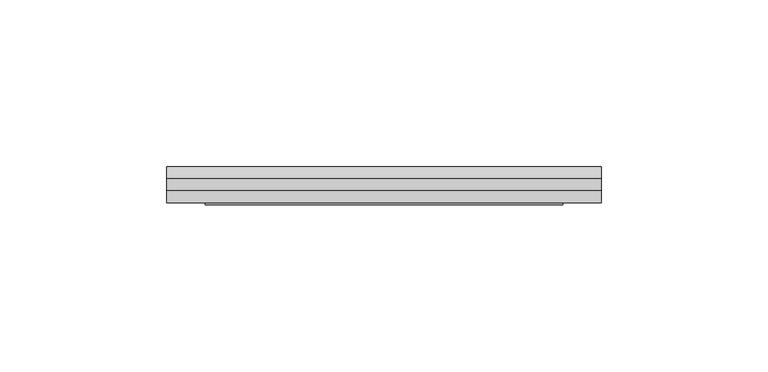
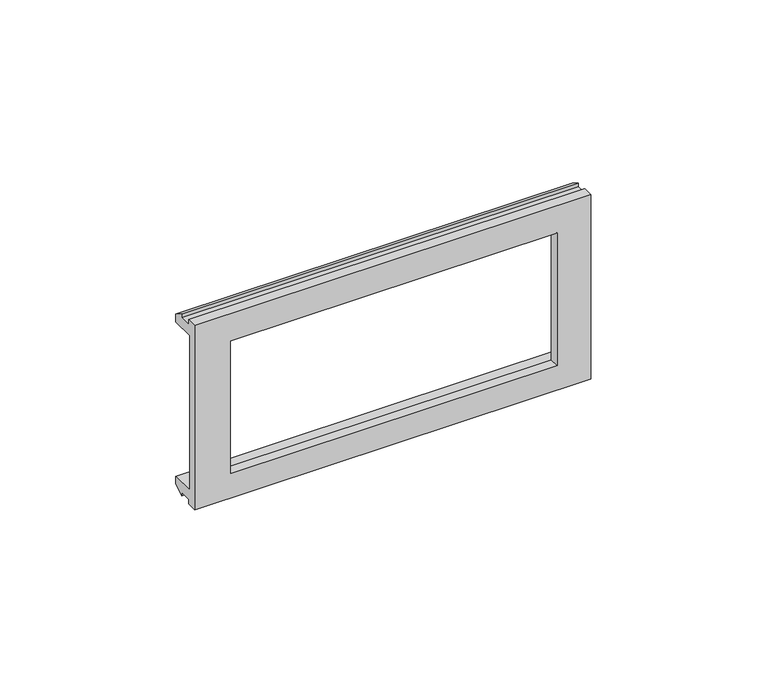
"""IFC4 building model written with IfcOpenShell, lengths in millimetres: proxy geometry."""

from ifc_helpers import new_model, si_unit, frame, origin, place, context, project, spatial, polyline, circle_curve, source, transform, mapped, element, save
from ifc_brep_helpers import plane_surface, cylinder_surface, revolved_surface, advanced_brep


def electrical_fixtures_c6ee2e83(model_context):
    return source(origin(), model_context, "Body", "AdvancedBrep", [
        advanced_brep(
        [(65.0, -3.5, 32.0), (65.0, -3.5, -32.0), (65.0, 0.0, -32.0), (65.0, -0.1920215, -30.3542211), (65.0, 3.8395952, -30.3542211), (65.0, 3.8395952, -31.5769261), (65.0, 7.1871999, -29.457495), (65.0, 7.1871999, -26.8043792), (65.0, -0.5712834, -26.8043792), (65.0, -0.5712834, 26.8043792), (65.0, 7.1871999, 26.8043792), (65.0, 7.1871999, 29.457495), (65.0, 3.8395952, 31.5769261), (65.0, 3.8395952, 30.3542211), (65.0, -0.1920215, 30.3542211), (65.0, 0.0, 32.0), (-65.0, -3.5, 32.0), (-65.0, 0.0, 32.0), (-65.0, -0.1920215, 30.3542211), (-65.0, 3.8395952, 30.3542211), (-65.0, 3.8395952, 31.5769261), (-65.0, 7.1871999, 29.457495), (-65.0, 7.1871999, 26.8043792), (-65.0, -0.5712834, 26.8043792), (-65.0, -0.5712834, -26.8043792), (-65.0, 7.1871999, -26.8043792), (-65.0, 7.1871999, -29.457495), (-65.0, 3.8395952, -31.5769261), (-65.0, 3.8395952, -30.3542211), (-65.0, -0.1920215, -30.3542211), (-65.0, 0.0, -32.0), (-65.0, -3.5, -32.0), (53.5, -4.1351573, 23.0), (53.5, -4.1351573, -23.0), (-53.5, -4.1351573, -23.0), (-53.5, -4.1351573, 23.0), (53.5, -0.9249591, -23.0), (53.5, -0.9249591, 23.0), (-53.5, -0.9249591, 23.0), (-53.5, -0.9249591, -23.0)],
        [
            (0, 1, circle_curve(frame((65.0, 385.8496712, 0.0), z_axis=(1.0, 0.0, 0.0), x_axis=(0.0, 1.0, 0.0)), 390.6624713)),
            (1, 2),
            (2, 3, circle_curve(frame((65.0, 267.1169132, 0.0), z_axis=(-1.0, 0.0, 0.0), x_axis=(0.0, 1.0, 0.0)), 269.0268487)),
            (3, 4),
            (4, 5),
            (5, 6),
            (6, 7),
            (7, 8),
            (8, 9, circle_curve(frame((65.0, 267.1169132, 0.0), z_axis=(-1.0, 0.0, 0.0), x_axis=(0.0, 1.0, 0.0)), 269.0268487)),
            (9, 10),
            (10, 11),
            (11, 12),
            (12, 13),
            (13, 14),
            (14, 15, circle_curve(frame((65.0, 267.1169132, 0.0), z_axis=(-1.0, 0.0, 0.0), x_axis=(0.0, 1.0, 0.0)), 269.0268487)),
            (15, 0),
            (16, 17),
            (17, 18, circle_curve(frame((-65.0, 267.1169132, 0.0), z_axis=(1.0, 0.0, 0.0), x_axis=(0.0, 1.0, 0.0)), 269.0268487)),
            (18, 19),
            (19, 20),
            (20, 21),
            (21, 22),
            (22, 23),
            (23, 24, circle_curve(frame((-65.0, 267.1169132, 0.0), z_axis=(1.0, 0.0, 0.0), x_axis=(0.0, 1.0, 0.0)), 269.0268487)),
            (24, 25),
            (25, 26),
            (26, 27),
            (27, 28),
            (28, 29),
            (29, 30, circle_curve(frame((-65.0, 267.1169132, 0.0), z_axis=(1.0, 0.0, 0.0), x_axis=(0.0, 1.0, 0.0)), 269.0268487)),
            (30, 31),
            (31, 16, circle_curve(frame((-65.0, 385.8496712, 0.0), z_axis=(-1.0, 0.0, 0.0), x_axis=(0.0, 1.0, 0.0)), 390.6624713)),
            (0, 16),
            (31, 1),
            (32, 33, circle_curve(frame((53.5, 385.8496712, 0.0), z_axis=(1.0, 0.0, 0.0), x_axis=(0.0, 1.0, 0.0)), 390.6624713)),
            (33, 34),
            (34, 35, circle_curve(frame((-53.5, 385.8496712, 0.0), z_axis=(-1.0, 0.0, 0.0), x_axis=(0.0, 1.0, 0.0)), 390.6624713)),
            (35, 32),
            (30, 2),
            (29, 3),
            (15, 17),
            (36, 33),
            (32, 37),
            (37, 36, circle_curve(frame((53.5, 267.1169132, 0.0), z_axis=(1.0, 0.0, 0.0), x_axis=(0.0, 1.0, 0.0)), 269.0268487)),
            (35, 38),
            (38, 37),
            (34, 39),
            (39, 38, circle_curve(frame((-53.5, 267.1169132, 0.0), z_axis=(-1.0, 0.0, 0.0), x_axis=(0.0, 1.0, 0.0)), 269.0268487)),
            (36, 39),
            (28, 4),
            (27, 5),
            (26, 6),
            (25, 7),
            (24, 8),
            (23, 9),
            (22, 10),
            (21, 11),
            (20, 12),
            (19, 13),
            (18, 14),
        ],
        [
            plane_surface(frame((65.0, 776.5121425, 0.0), z_axis=(1.0, 0.0, 0.0), x_axis=(0.0, 0.0, 1.0))),
            plane_surface(frame((-65.0, 776.5121425, 0.0), z_axis=(-1.0, 0.0, 0.0), x_axis=(0.0, 0.0, -1.0))),
            cylinder_surface(frame((-65.0, 385.8496712, 0.0), z_axis=(1.0, 0.0, 0.0), x_axis=(0.0, 1.0, 0.0)), 390.6624713),
            plane_surface(frame((65.0, -3.5, -32.0), z_axis=(0.0, 0.0, -1.0), x_axis=(-1.0, 0.0, 0.0))),
            revolved_surface(polyline([(-65.0, 536.1437619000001, 0.0), (65.0, 536.1437619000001, 0.0)]), (-65.0, 267.1169132, 0.0), (-1.0, 0.0, 0.0)),
            plane_surface(frame((65.0, 0.0, 32.0), z_axis=(0.0, 0.0, 1.0), x_axis=(-1.0, 0.0, 0.0))),
            plane_surface(frame((53.5, -5.8409784, -23.0), z_axis=(-1.0, 0.0, 0.0), x_axis=(0.0, 1.0, 0.0))),
            plane_surface(frame((53.5, -5.8409784, 23.0), z_axis=(0.0, 0.0, -1.0), x_axis=(0.0, 1.0, 0.0))),
            plane_surface(frame((-53.5, -5.8409784, 23.0), z_axis=(1.0, 0.0, 0.0), x_axis=(0.0, 1.0, 0.0))),
            plane_surface(frame((-53.5, -5.8409784, -23.0), z_axis=(0.0, 0.0, 1.0), x_axis=(0.0, 1.0, 0.0))),
            plane_surface(frame((65.0, -0.1920215, -30.3542211), z_axis=(0.0, 0.0, -1.0), x_axis=(-1.0, 0.0, 0.0))),
            plane_surface(frame((65.0, 3.8395952, -30.3542211), z_axis=(0.0, -1.0, 0.0), x_axis=(-1.0, 0.0, 0.0))),
            plane_surface(frame((65.0, 3.8395952, -31.5769261), z_axis=(0.0, 0.5349226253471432, -0.8449010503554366), x_axis=(-1.0, 0.0, 0.0))),
            plane_surface(frame((65.0, 7.1871999, -29.457495), z_axis=(0.0, 1.0, 0.0), x_axis=(-1.0, 0.0, 0.0))),
            plane_surface(frame((65.0, 7.1871999, -26.8043792), z_axis=(0.0, 0.0, 1.0), x_axis=(-1.0, 0.0, 0.0))),
            plane_surface(frame((65.0, -0.5712834, 26.8043792), z_axis=(0.0, 0.0, -1.0), x_axis=(-1.0, 0.0, 0.0))),
            plane_surface(frame((65.0, 7.1871999, 26.8043792), z_axis=(0.0, 1.0, 0.0), x_axis=(-1.0, 0.0, 0.0))),
            plane_surface(frame((65.0, 7.1871999, 29.457495), z_axis=(0.0, 0.5349226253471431, 0.8449010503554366), x_axis=(-1.0, 0.0, 0.0))),
            plane_surface(frame((65.0, 3.8395952, 31.5769261), z_axis=(0.0, -1.0, 0.0), x_axis=(-1.0, 0.0, 0.0))),
            plane_surface(frame((65.0, 3.8395952, 30.3542211), z_axis=(0.0, 0.0, 1.0), x_axis=(-1.0, 0.0, 0.0))),
        ],
        [
            (0, [[1, 2, 3, 4, 5, 6, 7, 8, 9, 10, 11, 12, 13, 14, 15, 16]]),
            (1, [[17, 18, 19, 20, 21, 22, 23, 24, 25, 26, 27, 28, 29, 30, 31, 32]]),
            (2, [[-1, 33, -32, 34], [35, 36, 37, 38]]),
            (3, [[-2, -34, -31, 39]]),
            (4, [[-3, -39, -30, 40]]),
            (5, [[-16, 41, -17, -33]]),
            (6, [[42, -35, 43, 44]]),
            (7, [[-43, -38, 45, 46]]),
            (8, [[-45, -37, 47, 48]]),
            (9, [[-42, 49, -47, -36]]),
            (10, [[-4, -40, -29, 50]]),
            (11, [[-5, -50, -28, 51]]),
            (12, [[-6, -51, -27, 52]]),
            (13, [[-7, -52, -26, 53]]),
            (14, [[-8, -53, -25, 54]]),
            (4, [[-9, -54, -24, 55], [-44, -46, -48, -49]]),
            (15, [[-10, -55, -23, 56]]),
            (16, [[-11, -56, -22, 57]]),
            (17, [[-12, -57, -21, 58]]),
            (18, [[-13, -58, -20, 59]]),
            (19, [[-14, -59, -19, 60]]),
            (4, [[-15, -60, -18, -41]]),
        ],
    ),
    ])


if __name__ == "__main__":
    model = new_model("IFC4")
    model_context = context("Model", 3, world=origin())
    ifc_project = project(units=[si_unit("LENGTHUNIT", "METRE", prefix="MILLI")], contexts=[model_context])
    site = spatial("IfcSite", under=ifc_project)
    building = spatial("IfcBuilding", under=site)
    placement = place(None, origin())
    electrical_fixtures_shape = electrical_fixtures_c6ee2e83(model_context)
    element("IfcBuildingElementProxy", 1, Name="Electrical Fixtures", at=placement, inside=building, context=model_context, shape_type="MappedRepresentation", body=[
        mapped(electrical_fixtures_shape, transform((0.0, 0.0, 0.0), x_axis=(1.0, 0.0, 0.0), y_axis=(0.0, 1.0, 0.0), z_axis=(0.0, 0.0, 1.0))),
    ])
    save(model, "model.ifc")
